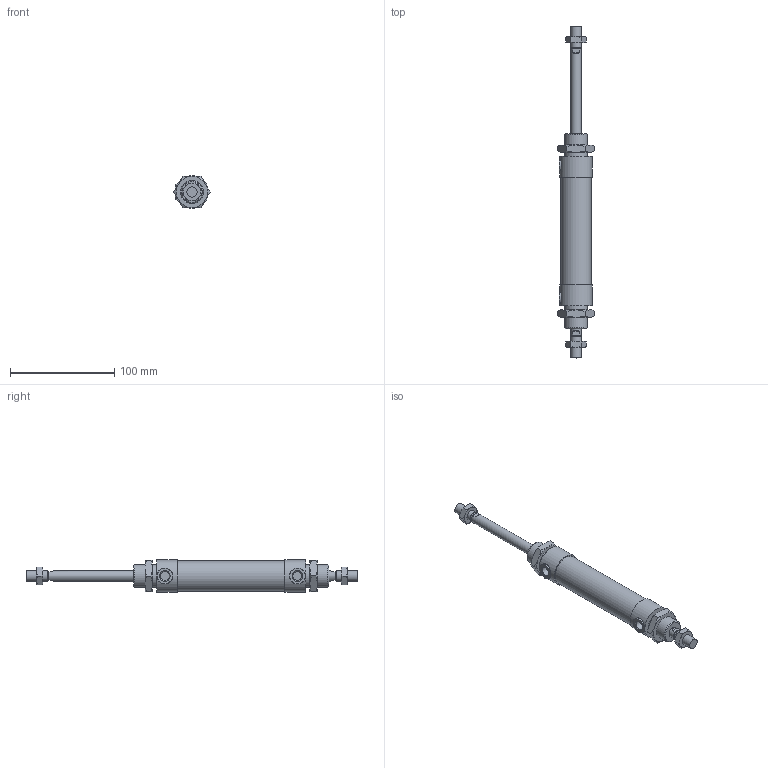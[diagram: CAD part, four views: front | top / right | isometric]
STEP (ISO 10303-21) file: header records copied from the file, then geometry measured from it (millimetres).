
FILE_DESCRIPTION((''),'2;1');
FILE_NAME('L:\Lib-3d\1200\CILINDRI\1232\1232_25_0075.stp','2006-01-05T14:36:06',('medicfa1'),(''),'Autodesk Inventor 10','Autodesk Inventor 10','');
FILE_SCHEMA(('AUTOMOTIVE_DESIGN { 1 0 10303 214 1 1 1 1 }'));
Length unit declared in the file: millimetre
Products named in the file (5): 1232_25_0075; C1232_25_75; S1232_25_75; 1200_25_05; 1200_25_06
Assembly tree (6 placements, depth 2):
  1232_25_0075
    C1232_25_75
    S1232_25_75
    1200_25_05  x2
    1200_25_06  x2
Bounding box: 34.64 x 318 x 31.5 mm (x, y, z)
Volume: 133444 mm3; surface area: 40228.4 mm2
Topology: 6 solids, 6 shells, 141 faces, 299 edges, 178 vertices
Faces by surface type: plane 62, cone 54, cylinder 15, bspline 10
Full cylindrical faces by diameter (mm): 8.7 x2, 8.8 x2, 10 x4, 15 x2, 22 x2, 29 x1, 31.5 x2
Entity records: 2620 total; most frequent: CARTESIAN_POINT 721, DIRECTION 390, ORIENTED_EDGE 324, AXIS2_PLACEMENT_3D 177, EDGE_CURVE 162, EDGE_LOOP 136, VERTEX_POINT 110, FACE_OUTER_BOUND 95
